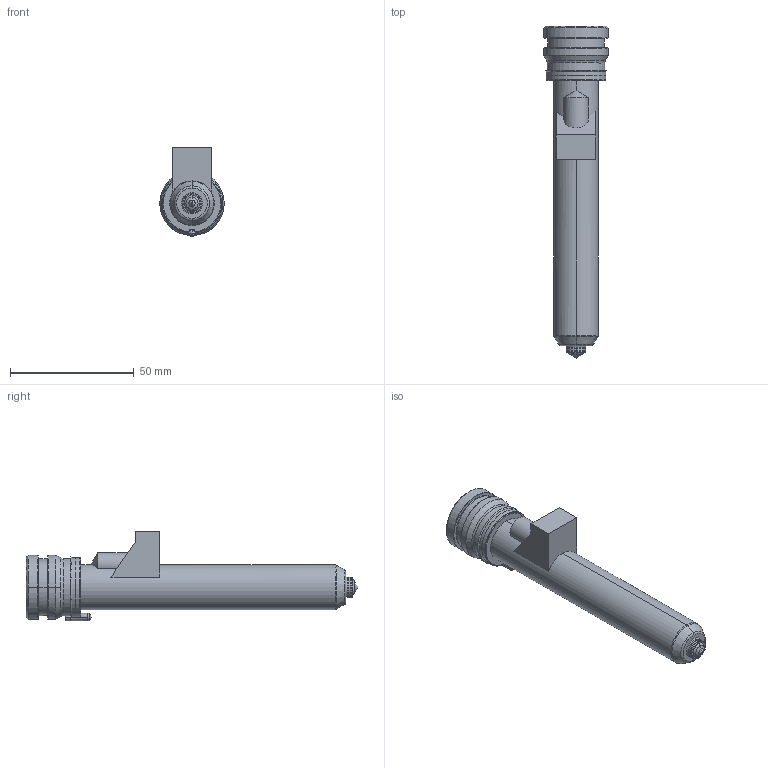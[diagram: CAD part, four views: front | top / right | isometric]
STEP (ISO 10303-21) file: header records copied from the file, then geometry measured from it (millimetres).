
FILE_DESCRIPTION((''),'2;1');
FILE_NAME('TH18116-M-1GLT-PK-JG','2023-12-14T',('umhib'),('Thermoplay S.p.A.'),'PRO/ENGINEER BY PARAMETRIC TECHNOLOGY CORPORATION, 2017170','PRO/ENGINEER BY PARAMETRIC TECHNOLOGY CORPORATION, 2017170','');
FILE_SCHEMA(('CONFIG_CONTROL_DESIGN'));
Length unit declared in the file: millimetre
Products named in the file (1): TH18116-M-1GLT-PK-JG
Bounding box: 26 x 134 x 36.1 mm (x, y, z)
Volume: 27876.7 mm3; surface area: 21479.8 mm2
Topology: 1 solids, 2 shells, 413 faces, 1052 edges, 647 vertices
Faces by surface type: cylinder 160, plane 92, cone 64, torus 64, bspline 22, sphere 9, extrusion 2
Entity records: 16931 total; most frequent: CARTESIAN_POINT 4933, DIRECTION 2166, ORIENTED_EDGE 2078, EDGE_CURVE 1041, AXIS2_PLACEMENT_3D 881, VERTEX_POINT 647, CIRCLE 491, EDGE_LOOP 441
